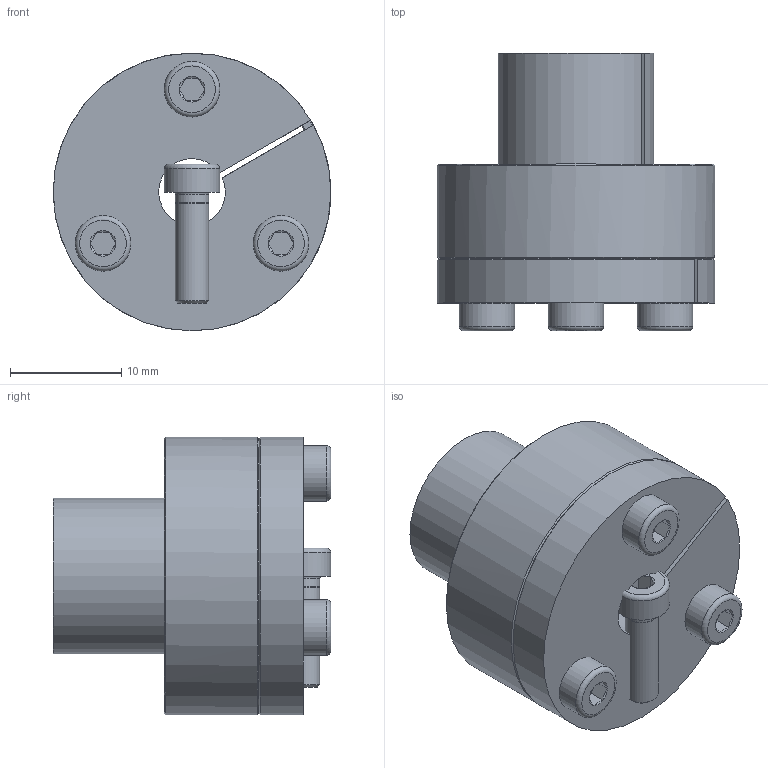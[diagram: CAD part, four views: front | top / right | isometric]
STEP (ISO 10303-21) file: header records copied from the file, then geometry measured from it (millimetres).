
FILE_DESCRIPTION( ( 'Unknown' ), '1' );
FILE_NAME( 'C:/Dokumente und Einstellungen/Sven/Desktop/homepage/cad - homepage/KBS80/KBS 80 - 6 x 14.stp', 'Unknown', ( 'Unknown' ), ( 'Unknown' ), 'XStep 1.0', 'Unknown', ' ' );
FILE_SCHEMA( ( 'automotive_design' ) );
Length unit declared in the file: millimetre
Products named in the file (3): Assem1; KBS 80 - 6 x 14; ISO EN DIN 4762 M3x10
Bounding box: 25 x 25 x 25 mm (x, y, z)
Volume: 13834.6 mm3; surface area: 7459.8 mm2
Topology: 6 solids, 6 shells, 146 faces, 298 edges, 178 vertices
Faces by surface type: plane 64, cone 42, cylinder 32, torus 8
Full cylindrical faces by diameter (mm): 2.98 x4, 3 x14, 5 x4, 25 x2
Entity records: 1502 total; most frequent: CARTESIAN_POINT 256, DIRECTION 220, ORIENTED_EDGE 172, AXIS2_PLACEMENT_3D 95, EDGE_CURVE 86, EDGE_LOOP 73, VERTEX_POINT 59, FACE_OUTER_BOUND 58
